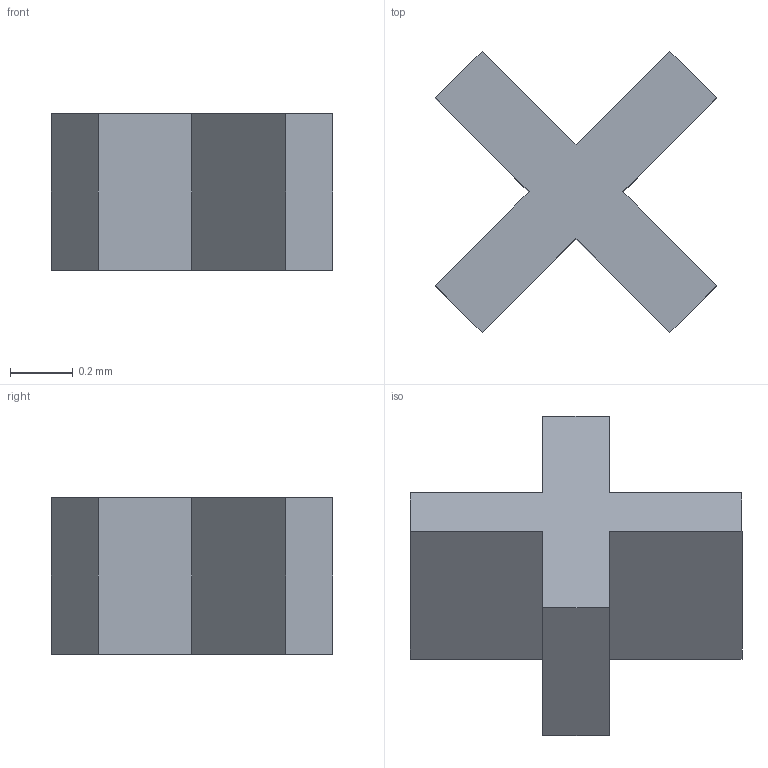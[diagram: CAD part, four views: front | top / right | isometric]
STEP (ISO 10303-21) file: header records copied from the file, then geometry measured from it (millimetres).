
FILE_DESCRIPTION(/* description */ ('STEP AP242 Edition 2','CAx-IF Rec.Pracs.---Representation and Presentation of Product Manufacturing Information (PMI)---4.0---2014-10-13','CAx-IF Rec.Pracs.---3D Tessellated Geometry---0.4---2014-09-14','2;1','CAx-IF Rec.Pracs.---User Defined Attributes---1.5---2016-08-15'),/* implementation_level */ '2;1');
FILE_NAME(/* name */ 'Drone Layout - Surface 286',/* time_stamp */ '2026-10-04T22:22:55Z',/* author */ (''),/* organization */ (''),/* preprocessor_version */ 'ST-DEVELOPER v20',/* originating_system */ 'ONSHAPE BY PTC INC, 1.221',/* authorisation */ ' ');
FILE_SCHEMA (('AP242_MANAGED_MODEL_BASED_3D_ENGINEERING_MIM_LF { 1 0 10303 442 3 1 4 }'));
Length unit declared in the file: metre
Products named in the file (1): Text_X
Bounding box: 0.9 x 0.9 x 0.5 mm (x, y, z)
Volume: 0.2 mm3; surface area: 2.9 mm2
Topology: 1 solids, 1 shells, 14 faces, 36 edges, 24 vertices
Faces by surface type: plane 14
Entity records: 433 total; most frequent: CARTESIAN_POINT 75, ORIENTED_EDGE 72, DIRECTION 66, EDGE_CURVE 36, LINE 36, VECTOR 36, VERTEX_POINT 24, AXIS2_PLACEMENT_3D 15
